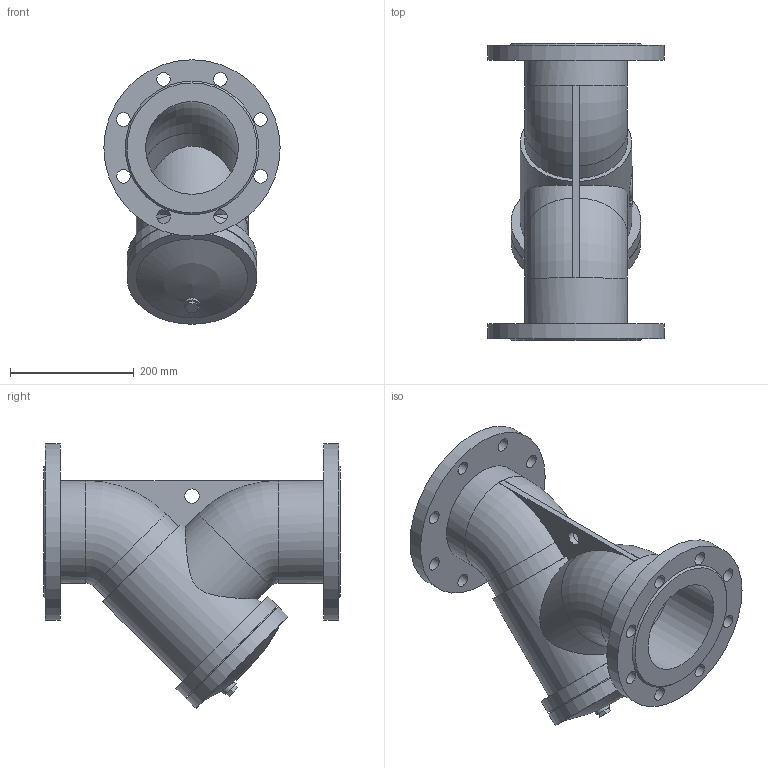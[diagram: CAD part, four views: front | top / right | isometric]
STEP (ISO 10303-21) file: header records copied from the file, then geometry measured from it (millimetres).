
FILE_DESCRIPTION(('STEP AP203'), '1');
FILE_NAME('Ôèëüòð ñåò÷àòûé ôëàíöåâûé 021Y DN150 PN10_PN16', '', ('UNSPECIFIED'), ('UNSPECIFIED'), 'ASCON STEP Converter 1.6', 'ASCON Math Kernel', '');
FILE_SCHEMA(('CONFIG_CONTROL_DESIGN'));
Length unit declared in the file: millimetre
Bounding box: 285 x 480 x 427.5 mm (x, y, z)
Volume: 10067244.5 mm3; surface area: 828974.4 mm2
Topology: 1 solids, 1 shells, 84 faces, 194 edges, 125 vertices
Faces by surface type: cylinder 40, plane 37, torus 4, cone 2, sphere 1
Full cylindrical faces by diameter (mm): 22 x16, 23 x1, 25 x1, 150 x4, 166 x2, 180 x1, 198 x1, 210 x2, 285 x2
Entity records: 4173 total; most frequent: CARTESIAN_POINT 1577, DIRECTION 399, ORIENTED_EDGE 314, AXIS2_PLACEMENT_3D 170, EDGE_LOOP 167, EDGE_CURVE 157, VERTEX_POINT 124, FACE_BOUND 102
